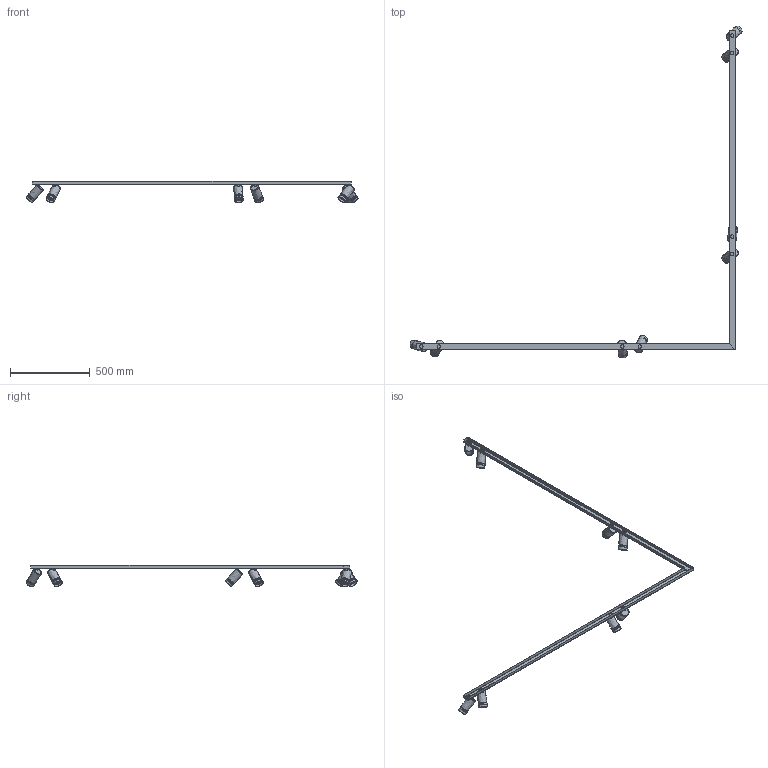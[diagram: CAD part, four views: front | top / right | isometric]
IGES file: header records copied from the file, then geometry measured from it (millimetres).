
Start section: SolidWorks IGES file using NURBS representation for surfaces
Global section: file name: Z:\Modele 3D_WWW\_KOLEKCJE_WWW\MONO\MONO-CORNER\7702\MONO-CORNER-VIII-2X200-GOLD-7702.IGS; native system: SolidWorks 2021; preprocessor: SolidWorks 2021; author: gabriela.tworek; date: 220120.131700; units: millimetre
Bounding box: 2081.23 x 2080.76 x 135.44 mm (x, y, z)
Surface area: 1051682.7 mm2 (no closed solid volume)
Topology: 0 solids, 0 shells, 462 faces, 2765 edges, 2677 vertices
Faces by surface type: bspline 462
